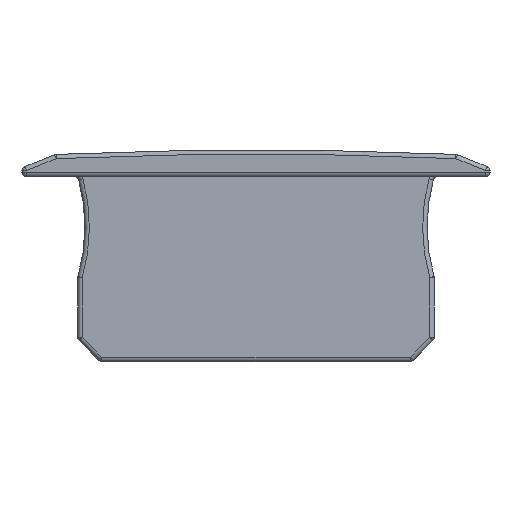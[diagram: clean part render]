
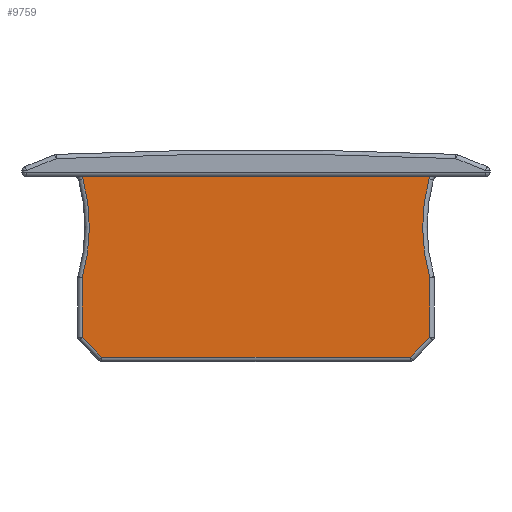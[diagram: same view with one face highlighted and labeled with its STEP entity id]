
A CAD part, front view. The second image highlights one B-rep face of the part: STEP entity #9759.
In plain terms, the highlighted planar face has unit normal (0, -1, 0).
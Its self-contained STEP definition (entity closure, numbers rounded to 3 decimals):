
#440=CIRCLE('',#10636,0.4);
#443=CIRCLE('',#10640,8.2);
#463=CIRCLE('',#10671,8.2);
#464=CIRCLE('',#10673,0.4);
#1289=FACE_OUTER_BOUND('',#1901,.T.);
#1901=EDGE_LOOP('',(#7515,#7516,#7517,#7518,#7519,#7520,#7521,#7522,#7523,
#7524));
#2623=LINE('',#15895,#3499);
#2625=LINE('',#15905,#3501);
#2627=LINE('',#15915,#3503);
#2629=LINE('',#15925,#3505);
#2631=LINE('',#15935,#3507);
#2632=LINE('',#15960,#3508);
#3499=VECTOR('',#12640,10.);
#3501=VECTOR('',#12652,10.);
#3503=VECTOR('',#12664,10.);
#3505=VECTOR('',#12676,10.);
#3507=VECTOR('',#12688,10.);
#3508=VECTOR('',#12715,10.);
#4371=VERTEX_POINT('',#15870);
#4372=VERTEX_POINT('',#15872);
#4375=VERTEX_POINT('',#15884);
#4378=VERTEX_POINT('',#15893);
#4381=VERTEX_POINT('',#15903);
#4384=VERTEX_POINT('',#15913);
#4387=VERTEX_POINT('',#15923);
#4390=VERTEX_POINT('',#15933);
#4393=VERTEX_POINT('',#15943);
#4395=VERTEX_POINT('',#15948);
#5469=EDGE_CURVE('',#4371,#4372,#440,.T.);
#5473=EDGE_CURVE('',#4375,#4371,#443,.T.);
#5478=EDGE_CURVE('',#4378,#4375,#2623,.T.);
#5483=EDGE_CURVE('',#4381,#4378,#2625,.T.);
#5488=EDGE_CURVE('',#4384,#4381,#2627,.T.);
#5493=EDGE_CURVE('',#4387,#4384,#2629,.T.);
#5498=EDGE_CURVE('',#4390,#4387,#2631,.T.);
#5503=EDGE_CURVE('',#4393,#4390,#463,.T.);
#5505=EDGE_CURVE('',#4395,#4393,#464,.T.);
#5508=EDGE_CURVE('',#4395,#4372,#2632,.T.);
#7515=ORIENTED_EDGE('',*,*,#5469,.F.);
#7516=ORIENTED_EDGE('',*,*,#5473,.F.);
#7517=ORIENTED_EDGE('',*,*,#5478,.F.);
#7518=ORIENTED_EDGE('',*,*,#5483,.F.);
#7519=ORIENTED_EDGE('',*,*,#5488,.F.);
#7520=ORIENTED_EDGE('',*,*,#5493,.F.);
#7521=ORIENTED_EDGE('',*,*,#5498,.F.);
#7522=ORIENTED_EDGE('',*,*,#5503,.F.);
#7523=ORIENTED_EDGE('',*,*,#5505,.F.);
#7524=ORIENTED_EDGE('',*,*,#5508,.T.);
#9354=PLANE('',#10677);
#9759=ADVANCED_FACE('',(#1289),#9354,.T.);
#10636=AXIS2_PLACEMENT_3D('',#15873,#12621,#12622);
#10640=AXIS2_PLACEMENT_3D('',#15886,#12629,#12630);
#10671=AXIS2_PLACEMENT_3D('',#15945,#12701,#12702);
#10673=AXIS2_PLACEMENT_3D('',#15955,#12705,#12706);
#10677=AXIS2_PLACEMENT_3D('',#15959,#12713,#12714);
#12621=DIRECTION('center_axis',(0.,-1.,0.));
#12622=DIRECTION('ref_axis',(0.607,0.,0.795));
#12629=DIRECTION('center_axis',(0.,-1.,0.));
#12630=DIRECTION('ref_axis',(1.,0.,-0.008));
#12640=DIRECTION('',(0.,0.,1.));
#12652=DIRECTION('',(-0.707,0.,0.707));
#12664=DIRECTION('',(-1.,0.,0.));
#12676=DIRECTION('',(-0.707,0.,-0.707));
#12688=DIRECTION('',(0.,0.,-1.));
#12701=DIRECTION('center_axis',(0.,-1.,0.));
#12702=DIRECTION('ref_axis',(-1.,0.,-0.008));
#12705=DIRECTION('center_axis',(0.,-1.,0.));
#12706=DIRECTION('ref_axis',(-0.607,0.,0.795));
#12713=DIRECTION('center_axis',(0.,-1.,0.));
#12714=DIRECTION('ref_axis',(1.,0.,0.));
#12715=DIRECTION('',(-1.,0.,0.));
#15870=CARTESIAN_POINT('',(-7.765,-2.,8.205));
#15872=CARTESIAN_POINT('',(-7.805,-2.,8.3));
#15873=CARTESIAN_POINT('Origin',(-8.151,-2.,8.1));
#15884=CARTESIAN_POINT('',(-7.8,-2.,3.771));
#15886=CARTESIAN_POINT('Origin',(-15.677,-2.,6.05));
#15893=CARTESIAN_POINT('',(-7.8,-2.,1.083));
#15895=CARTESIAN_POINT('',(-7.8,-2.,4.261));
#15903=CARTESIAN_POINT('',(-6.917,-2.,0.2));
#15905=CARTESIAN_POINT('',(-6.767,-2.,0.05));
#15913=CARTESIAN_POINT('',(6.917,-2.,0.2));
#15915=CARTESIAN_POINT('',(-3.459,-2.,0.2));
#15923=CARTESIAN_POINT('',(7.8,-2.,1.083));
#15925=CARTESIAN_POINT('',(6.325,-2.,-0.392));
#15933=CARTESIAN_POINT('',(7.8,-2.,3.771));
#15935=CARTESIAN_POINT('',(7.8,-2.,2.916));
#15943=CARTESIAN_POINT('',(7.765,-2.,8.205));
#15945=CARTESIAN_POINT('Origin',(15.677,-2.,6.05));
#15948=CARTESIAN_POINT('',(7.805,-2.,8.3));
#15955=CARTESIAN_POINT('Origin',(8.151,-2.,8.1));
#15959=CARTESIAN_POINT('Origin',(0.,-2.,4.75));
#15960=CARTESIAN_POINT('',(-5.15,-2.,8.3));
